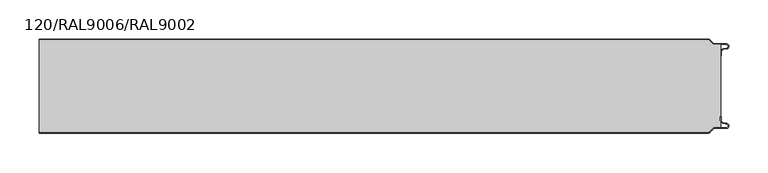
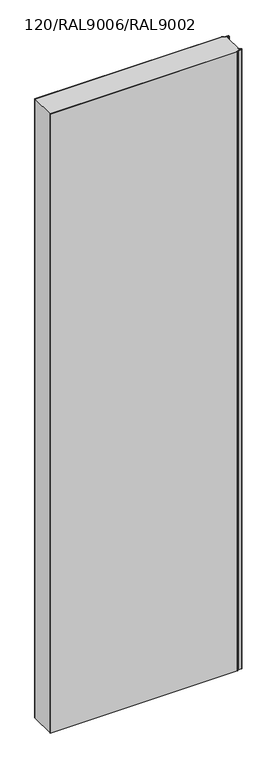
"""IFC4 building model written with IfcOpenShell, lengths in millimetres: plate geometry, TR_C_V_FTV_Panel_cut_TONGUE : 120/RAL9006/RAL9002."""

from ifc_helpers import new_model, si_unit, point, frame_2d, origin, origin_with_axes, place, context, project, spatial, polyline, circle_curve, trimmed, segment, composite_curve, outline, extrude, source, transform, mapped, element, save


def plate_120_ral9006_ral9002_200af9a8(model_context):
    return source(origin(), model_context, "Body", "SweptSolid", [
        extrude(outline(composite_curve([segment(polyline([(499.8000012, -103.1130328), (499.8000012, -99.0), (500.6000012, -99.0), (500.6000012, -103.1130328)]), True, "CONTINUOUS"), segment(trimmed(circle_curve(frame_2d((504.3500012, -103.1130328)), 3.75), [point((500.6000012, -103.1130328))], [point((503.6988205, -106.8060618))], True, "CARTESIAN"), True, "CONTINUOUS"), segment(polyline([(503.6988205, -106.8060618), (507.9143577, -107.5493748)]), True, "CONTINUOUS"), segment(trimmed(circle_curve(frame_2d((507.3500012, -110.75)), 3.25), [point((507.9143577, -107.5493748))], [point((507.3500012, -114.0))], False, "CARTESIAN"), True, "CONTINUOUS"), segment(polyline([(507.3500012, -114.0), (492.6000012, -114.0)]), True, "CONTINUOUS"), segment(trimmed(circle_curve(frame_2d((492.6000012, -116.5)), 2.5), [point((492.6000012, -114.0))], [point((490.8322342, -114.732233))], True, "CARTESIAN"), True, "CONTINUOUS"), segment(polyline([(490.8322342, -114.732233), (486.4431469, -119.1213203)]), True, "CONTINUOUS"), segment(trimmed(circle_curve(frame_2d((484.3218266, -117.0)), 3.0), [point((486.4431469, -119.1213203))], [point((484.3218266, -120.0))], False, "CARTESIAN"), True, "CONTINUOUS"), segment(polyline([(484.3218266, -120.0), (-370.0000002, -120.0), (-370.0000002, -119.2), (484.3218266, -119.2)]), True, "CONTINUOUS"), segment(trimmed(circle_curve(frame_2d((484.3218266, -117.0)), 2.2), [point((484.3218266, -119.2))], [point((485.8774615, -118.5556349))], True, "CARTESIAN"), True, "CONTINUOUS"), segment(polyline([(485.8774615, -118.5556349), (490.2665488, -114.1665476)]), True, "CONTINUOUS"), segment(trimmed(circle_curve(frame_2d((492.6000012, -116.5)), 3.3), [point((490.2665488, -114.1665476))], [point((492.6000012, -113.2))], False, "CARTESIAN"), True, "CONTINUOUS"), segment(polyline([(492.6000012, -113.2), (507.3500012, -113.2)]), True, "CONTINUOUS"), segment(trimmed(circle_curve(frame_2d((507.3500012, -110.75)), 2.45), [point((507.3500012, -113.2))], [point((507.7754392, -108.337221))], True, "CARTESIAN"), True, "CONTINUOUS"), segment(polyline([(507.7754392, -108.337221), (503.559902, -107.5939081)]), True, "CONTINUOUS"), segment(trimmed(circle_curve(frame_2d((504.3500012, -103.1130328)), 4.55), [point((503.559902, -107.5939081))], [point((499.8000012, -103.1130328))], False, "CARTESIAN"), True, "CONTINUOUS")], self_intersect=False)), origin_with_axes(), (0.0, 0.0, 1.0), 2980.0),
        extrude(outline(composite_curve([segment(trimmed(circle_curve(frame_2d((484.3218266, -3.0)), 2.2), [point((484.3218266, -0.8))], [point((485.8774615, -1.4443651))], False, "CARTESIAN"), True, "CONTINUOUS"), segment(polyline([(485.8774615, -1.4443651), (490.2665488, -5.8334524)]), True, "CONTINUOUS"), segment(trimmed(circle_curve(frame_2d((492.6000012, -3.5)), 3.3), [point((490.2665488, -5.8334524))], [point((492.6000012, -6.8))], True, "CARTESIAN"), True, "CONTINUOUS"), segment(polyline([(492.6000012, -6.8), (500.0, -6.8), (500.0, -113.2), (492.6000012, -113.2)]), True, "CONTINUOUS"), segment(trimmed(circle_curve(frame_2d((492.6000012, -116.5)), 3.3), [point((492.6000012, -113.2))], [point((490.2665488, -114.1665476))], True, "CARTESIAN"), True, "CONTINUOUS"), segment(polyline([(490.2665488, -114.1665476), (485.8774615, -118.5556349)]), True, "CONTINUOUS"), segment(trimmed(circle_curve(frame_2d((484.3218266, -117.0)), 2.2), [point((485.8774615, -118.5556349))], [point((484.3218266, -119.2))], False, "CARTESIAN"), True, "CONTINUOUS"), segment(polyline([(484.3218266, -119.2), (-370.0000002, -119.2), (-370.0000002, -0.8), (484.3218266, -0.8)]), True, "CONTINUOUS")], self_intersect=False)), origin_with_axes(), (0.0, 0.0, 1.0), 2980.0),
        extrude(outline(composite_curve([segment(trimmed(circle_curve(frame_2d((504.3500012, -16.8869672)), 4.55), [point((499.8000012, -16.8869672))], [point((503.559902, -12.4060919))], False, "CARTESIAN"), True, "CONTINUOUS"), segment(polyline([(503.559902, -12.4060919), (507.7754392, -11.662779)]), True, "CONTINUOUS"), segment(trimmed(circle_curve(frame_2d((507.3500012, -9.25)), 2.45), [point((507.7754392, -11.662779))], [point((507.3500012, -6.8))], True, "CARTESIAN"), True, "CONTINUOUS"), segment(polyline([(507.3500012, -6.8), (492.6000012, -6.8)]), True, "CONTINUOUS"), segment(trimmed(circle_curve(frame_2d((492.6000012, -3.5)), 3.3), [point((492.6000012, -6.8))], [point((490.2665488, -5.8334524))], False, "CARTESIAN"), True, "CONTINUOUS"), segment(polyline([(490.2665488, -5.8334524), (485.8774615, -1.4443651)]), True, "CONTINUOUS"), segment(trimmed(circle_curve(frame_2d((484.3218266, -3.0)), 2.2), [point((485.8774615, -1.4443651))], [point((484.3218266, -0.8))], True, "CARTESIAN"), True, "CONTINUOUS"), segment(polyline([(484.3218266, -0.8), (-370.0000002, -0.8), (-370.0000002, 0.0), (484.3218266, 0.0)]), True, "CONTINUOUS"), segment(trimmed(circle_curve(frame_2d((484.3218266, -3.0)), 3.0), [point((484.3218266, 0.0))], [point((486.4431469, -0.8786797))], False, "CARTESIAN"), True, "CONTINUOUS"), segment(polyline([(486.4431469, -0.8786797), (490.8322342, -5.267767)]), True, "CONTINUOUS"), segment(trimmed(circle_curve(frame_2d((492.6000012, -3.5)), 2.5), [point((490.8322342, -5.267767))], [point((492.6000012, -6.0))], True, "CARTESIAN"), True, "CONTINUOUS"), segment(polyline([(492.6000012, -6.0), (507.3500012, -6.0)]), True, "CONTINUOUS"), segment(trimmed(circle_curve(frame_2d((507.3500012, -9.25)), 3.25), [point((507.3500012, -6.0))], [point((507.9143577, -12.4506252))], False, "CARTESIAN"), True, "CONTINUOUS"), segment(polyline([(507.9143577, -12.4506252), (503.6988205, -13.1939382)]), True, "CONTINUOUS"), segment(trimmed(circle_curve(frame_2d((504.3500012, -16.8869672)), 3.75), [point((503.6988205, -13.1939382))], [point((500.6000012, -16.8869672))], True, "CARTESIAN"), True, "CONTINUOUS"), segment(polyline([(500.6000012, -16.8869672), (500.6000012, -21.0), (499.8000012, -21.0), (499.8000012, -16.8869672)]), True, "CONTINUOUS")], self_intersect=False)), origin_with_axes(), (0.0, 0.0, 1.0), 2980.0),
    ])


if __name__ == "__main__":
    model = new_model("IFC4")
    model_context = context("Model", 3, world=origin())
    ifc_project = project(units=[si_unit("LENGTHUNIT", "METRE", prefix="MILLI")], contexts=[model_context])
    site = spatial("IfcSite", under=ifc_project)
    building = spatial("IfcBuilding", under=site)
    placement = place(None, origin())
    plate_120_ral9006_ral9002_shape = plate_120_ral9006_ral9002_200af9a8(model_context)
    element("IfcPlate", 1, ObjectType="TR_C_V_FTV_Panel_cut_TONGUE : 120/RAL9006/RAL9002", at=placement, inside=building, context=model_context, shape_type="MappedRepresentation", body=[
        mapped(plate_120_ral9006_ral9002_shape, transform((0.0, 0.0, 0.0), x_axis=(1.0, 0.0, 0.0), y_axis=(0.0, 1.0, 0.0), z_axis=(0.0, 0.0, 1.0))),
    ])
    save(model, "model.ifc")
